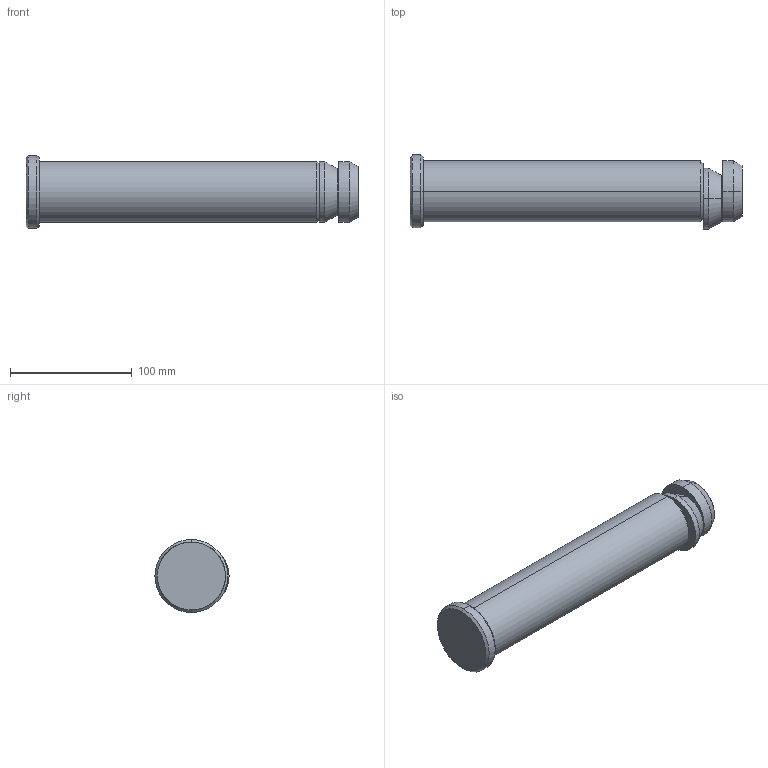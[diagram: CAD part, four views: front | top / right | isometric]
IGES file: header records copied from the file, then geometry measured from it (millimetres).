
Start section: START RECORD GO HERE.
Global section: file name: 395A-050-273.igs; native system: DASSAULT SYSTEMES CATIA V5 R20 - www.3ds.com; preprocessor: CATIA Version 5 Release 20 ; author: Utente; organization: NB04-ASUS; date: 20200409.142825; units: millimetre
Bounding box: 273 x 61 x 60 mm (x, y, z)
Surface area: 51248.8 mm2 (no closed solid volume)
Topology: 0 solids, 0 shells, 43 faces, 189 edges, 189 vertices
Faces by surface type: revolution 30, extrusion 13
